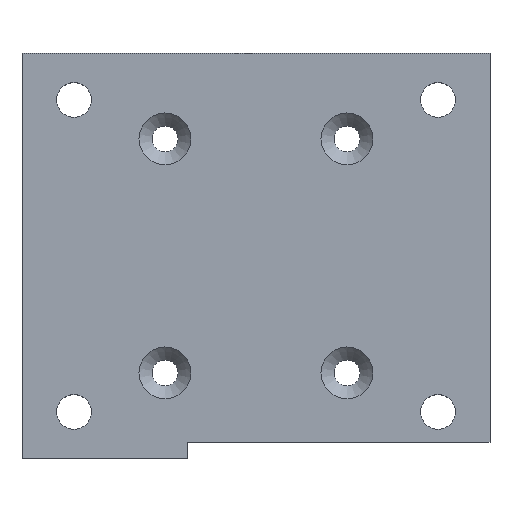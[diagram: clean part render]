
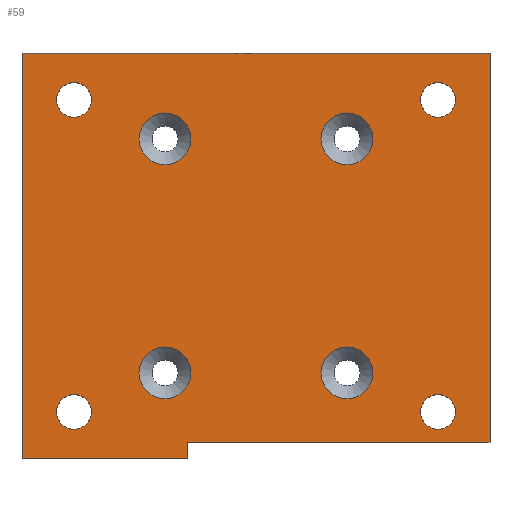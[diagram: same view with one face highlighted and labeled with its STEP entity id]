
A CAD part, top view. The second image highlights one B-rep face of the part: STEP entity #59.
In plain terms, the highlighted planar face has unit normal (0, 0, 1).
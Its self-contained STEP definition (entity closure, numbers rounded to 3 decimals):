
#59=ADVANCED_FACE('',(#221,#223,#225,#227,#229,#231,#233,#235,#237),#239,.T.);
#221=FACE_BOUND('',#222,.T.);
#222=EDGE_LOOP('',(#2004,#2005,#2006,#2007,#2008,#2009));
#223=FACE_BOUND('',#224,.T.);
#224=EDGE_LOOP('',(#2010));
#225=FACE_BOUND('',#226,.T.);
#226=EDGE_LOOP('',(#2011));
#227=FACE_BOUND('',#228,.T.);
#228=EDGE_LOOP('',(#2012));
#229=FACE_BOUND('',#230,.T.);
#230=EDGE_LOOP('',(#2013));
#231=FACE_BOUND('',#232,.T.);
#232=EDGE_LOOP('',(#2014));
#233=FACE_BOUND('',#234,.T.);
#234=EDGE_LOOP('',(#2015));
#235=FACE_BOUND('',#236,.T.);
#236=EDGE_LOOP('',(#2016));
#237=FACE_BOUND('',#238,.T.);
#238=EDGE_LOOP('',(#2017));
#239=PLANE('',#240);
#240=AXIS2_PLACEMENT_3D('',#241,#242,#243);
#241=CARTESIAN_POINT('',(-45.,39.,8.));
#242=DIRECTION('',(0.,0.,1.));
#243=DIRECTION('',(0.,-1.,0.));
#2004=ORIENTED_EDGE('',*,*,#2087,.T.);
#2005=ORIENTED_EDGE('',*,*,#2086,.F.);
#2006=ORIENTED_EDGE('',*,*,#2077,.F.);
#2007=ORIENTED_EDGE('',*,*,#2088,.T.);
#2008=ORIENTED_EDGE('',*,*,#2081,.T.);
#2009=ORIENTED_EDGE('',*,*,#2089,.T.);
#2010=ORIENTED_EDGE('',*,*,#2090,.T.);
#2011=ORIENTED_EDGE('',*,*,#2091,.T.);
#2012=ORIENTED_EDGE('',*,*,#2092,.T.);
#2013=ORIENTED_EDGE('',*,*,#2093,.T.);
#2014=ORIENTED_EDGE('',*,*,#2094,.T.);
#2015=ORIENTED_EDGE('',*,*,#2095,.T.);
#2016=ORIENTED_EDGE('',*,*,#2096,.T.);
#2017=ORIENTED_EDGE('',*,*,#2097,.T.);
#2077=EDGE_CURVE('',#2119,#2121,#2122,.T.);
#2081=EDGE_CURVE('',#2129,#2127,#2130,.T.);
#2086=EDGE_CURVE('',#2121,#2134,#2138,.T.);
#2087=EDGE_CURVE('',#2139,#2134,#2140,.F.);
#2088=EDGE_CURVE('',#2119,#2129,#2141,.T.);
#2089=EDGE_CURVE('',#2127,#2139,#2142,.F.);
#2090=EDGE_CURVE('',#2143,#2143,#2144,.F.);
#2091=EDGE_CURVE('',#2145,#2145,#2146,.F.);
#2092=EDGE_CURVE('',#2147,#2147,#2148,.F.);
#2093=EDGE_CURVE('',#2149,#2149,#2150,.F.);
#2094=EDGE_CURVE('',#2151,#2151,#2152,.F.);
#2095=EDGE_CURVE('',#2153,#2153,#2154,.F.);
#2096=EDGE_CURVE('',#2155,#2155,#2156,.F.);
#2097=EDGE_CURVE('',#2157,#2157,#2158,.F.);
#2119=VERTEX_POINT('',#2197);
#2121=VERTEX_POINT('',#2201);
#2122=LINE('',#2202,#2203);
#2127=VERTEX_POINT('',#2213);
#2129=VERTEX_POINT('',#2217);
#2130=LINE('',#2218,#2219);
#2134=VERTEX_POINT('',#2228);
#2138=LINE('',#2236,#2237);
#2139=VERTEX_POINT('',#2239);
#2140=LINE('',#2240,#2241);
#2141=LINE('',#2243,#2244);
#2142=LINE('',#2246,#2247);
#2143=VERTEX_POINT('',#2249);
#2144=CIRCLE('',#2250,5.);
#2145=VERTEX_POINT('',#2254);
#2146=CIRCLE('',#2255,5.);
#2147=VERTEX_POINT('',#2259);
#2148=CIRCLE('',#2260,3.323);
#2149=VERTEX_POINT('',#2264);
#2150=CIRCLE('',#2265,3.323);
#2151=VERTEX_POINT('',#2269);
#2152=CIRCLE('',#2270,3.323);
#2153=VERTEX_POINT('',#2274);
#2154=CIRCLE('',#2275,3.323);
#2155=VERTEX_POINT('',#2279);
#2156=CIRCLE('',#2280,5.);
#2157=VERTEX_POINT('',#2284);
#2158=CIRCLE('',#2285,5.);
#2197=CARTESIAN_POINT('',(-45.,39.,8.));
#2201=CARTESIAN_POINT('',(45.,39.,8.));
#2202=CARTESIAN_POINT('',(-45.,39.,8.));
#2203=VECTOR('',#2204,1.);
#2204=DIRECTION('',(1.,0.,0.));
#2213=CARTESIAN_POINT('',(-13.2,-39.,8.));
#2217=CARTESIAN_POINT('',(-45.,-39.,8.));
#2218=CARTESIAN_POINT('',(-45.,-39.,8.));
#2219=VECTOR('',#2220,1.);
#2220=DIRECTION('',(1.,0.,0.));
#2228=CARTESIAN_POINT('',(45.,-35.8,8.));
#2236=CARTESIAN_POINT('',(45.,39.,8.));
#2237=VECTOR('',#2238,1.);
#2238=DIRECTION('',(0.,-1.,0.));
#2239=CARTESIAN_POINT('',(-13.2,-35.8,8.));
#2240=CARTESIAN_POINT('',(45.,-35.8,8.));
#2241=VECTOR('',#2242,1.);
#2242=DIRECTION('',(-1.,0.,0.));
#2243=CARTESIAN_POINT('',(-45.,39.,8.));
#2244=VECTOR('',#2245,1.);
#2245=DIRECTION('',(0.,-1.,0.));
#2246=CARTESIAN_POINT('',(-13.2,-35.8,8.));
#2247=VECTOR('',#2248,1.);
#2248=DIRECTION('',(0.,-1.,0.));
#2249=CARTESIAN_POINT('',(-17.5,-17.5,8.));
#2250=AXIS2_PLACEMENT_3D('',#2251,#2252,#2253);
#2251=CARTESIAN_POINT('',(-17.5,-22.5,8.));
#2252=DIRECTION('',(0.,0.,1.));
#2253=DIRECTION('',(0.,1.,0.));
#2254=CARTESIAN_POINT('',(17.5,-17.5,8.));
#2255=AXIS2_PLACEMENT_3D('',#2256,#2257,#2258);
#2256=CARTESIAN_POINT('',(17.5,-22.5,8.));
#2257=DIRECTION('',(0.,0.,1.));
#2258=DIRECTION('',(0.,1.,0.));
#2259=CARTESIAN_POINT('',(-35.,33.323,8.));
#2260=AXIS2_PLACEMENT_3D('',#2261,#2262,#2263);
#2261=CARTESIAN_POINT('',(-35.,30.,8.));
#2262=DIRECTION('',(0.,0.,1.));
#2263=DIRECTION('',(0.,1.,0.));
#2264=CARTESIAN_POINT('',(35.,-26.677,8.));
#2265=AXIS2_PLACEMENT_3D('',#2266,#2267,#2268);
#2266=CARTESIAN_POINT('',(35.,-30.,8.));
#2267=DIRECTION('',(0.,0.,1.));
#2268=DIRECTION('',(0.,1.,0.));
#2269=CARTESIAN_POINT('',(35.,33.323,8.));
#2270=AXIS2_PLACEMENT_3D('',#2271,#2272,#2273);
#2271=CARTESIAN_POINT('',(35.,30.,8.));
#2272=DIRECTION('',(0.,0.,1.));
#2273=DIRECTION('',(0.,1.,0.));
#2274=CARTESIAN_POINT('',(-35.,-26.677,8.));
#2275=AXIS2_PLACEMENT_3D('',#2276,#2277,#2278);
#2276=CARTESIAN_POINT('',(-35.,-30.,8.));
#2277=DIRECTION('',(0.,0.,1.));
#2278=DIRECTION('',(0.,1.,0.));
#2279=CARTESIAN_POINT('',(17.5,27.5,8.));
#2280=AXIS2_PLACEMENT_3D('',#2281,#2282,#2283);
#2281=CARTESIAN_POINT('',(17.5,22.5,8.));
#2282=DIRECTION('',(0.,0.,1.));
#2283=DIRECTION('',(0.,1.,0.));
#2284=CARTESIAN_POINT('',(-17.5,27.5,8.));
#2285=AXIS2_PLACEMENT_3D('',#2286,#2287,#2288);
#2286=CARTESIAN_POINT('',(-17.5,22.5,8.));
#2287=DIRECTION('',(0.,0.,1.));
#2288=DIRECTION('',(0.,1.,0.));
